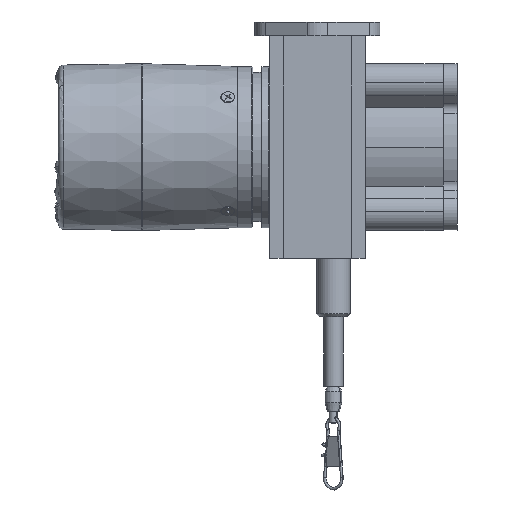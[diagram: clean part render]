
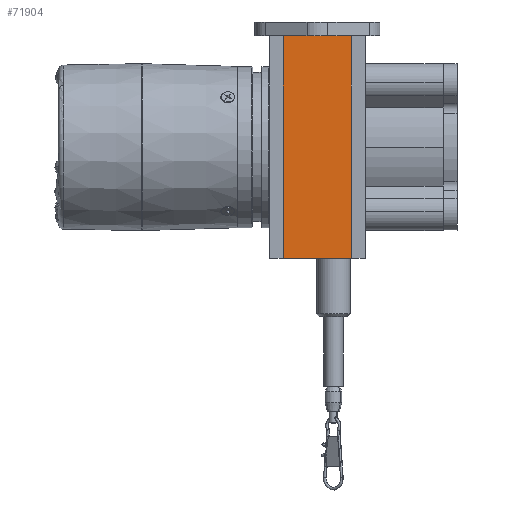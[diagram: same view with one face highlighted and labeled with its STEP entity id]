
A CAD part, front view. The second image highlights one B-rep face of the part: STEP entity #71904.
In plain terms, the highlighted planar face has unit normal (0, -1, 0).
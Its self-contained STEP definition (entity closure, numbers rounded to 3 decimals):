
#62656 = CARTESIAN_POINT ( 'NONE',  ( -24.5, -40., -40. ) ) ;
#62657 = LINE ( 'NONE', #62656, #62713 ) ;
#62686 = DIRECTION ( 'NONE',  ( 0., 0., 1. ) ) ;
#62687 = VECTOR ( 'NONE', #62686, 1000. ) ;
#62688 = CARTESIAN_POINT ( 'NONE',  ( -24.5, -40., -40. ) ) ;
#62689 = LINE ( 'NONE', #62688, #62687 ) ;
#62712 = DIRECTION ( 'NONE',  ( -1., 0., 0. ) ) ;
#62713 = VECTOR ( 'NONE', #62712, 1000. ) ;
#62739 = CARTESIAN_POINT ( 'NONE',  ( -24.5, -40., -40. ) ) ;
#62830 = DIRECTION ( 'NONE',  ( 0., 0., -1. ) ) ;
#62831 = VECTOR ( 'NONE', #62830, 1000. ) ;
#62832 = CARTESIAN_POINT ( 'NONE',  ( 0., -40., -40. ) ) ;
#62833 = LINE ( 'NONE', #62832, #62831 ) ;
#62846 = CARTESIAN_POINT ( 'NONE',  ( 0., -40., 40. ) ) ;
#62847 = DIRECTION ( 'NONE',  ( 1., 0., 0. ) ) ;
#62848 = VECTOR ( 'NONE', #62847, 1000. ) ;
#62849 = CARTESIAN_POINT ( 'NONE',  ( -24.5, -40., 40. ) ) ;
#62850 = LINE ( 'NONE', #62849, #62848 ) ;
#62868 = CARTESIAN_POINT ( 'NONE',  ( -24.5, -40., 40. ) ) ;
#62869 = CARTESIAN_POINT ( 'NONE',  ( 0., -40., -40. ) ) ;
#62973 = FACE_OUTER_BOUND ( 'NONE', #71828, .T. ) ;
#63022 = DIRECTION ( 'NONE',  ( 0., 0., 1. ) ) ;
#63023 = DIRECTION ( 'NONE',  ( 0., 1., 0. ) ) ;
#63024 = CARTESIAN_POINT ( 'NONE',  ( -24.5, -40., -40. ) ) ;
#63025 = AXIS2_PLACEMENT_3D ( 'NONE', #63024, #63023, #63022 ) ;
#63026 = PLANE ( 'NONE',  #63025 ) ;
#71793 = EDGE_CURVE ( 'NONE', #71861, #71800, #62657, .T. ) ;
#71797 = EDGE_CURVE ( 'NONE', #71800, #71863, #62689, .T. ) ;
#71800 = VERTEX_POINT ( 'NONE', #62739 ) ;
#71828 = EDGE_LOOP ( 'NONE', ( #71895, #71894, #71893, #71885 ) ) ;
#71831 = EDGE_CURVE ( 'NONE', #71853, #71861, #62833, .T. ) ;
#71848 = EDGE_CURVE ( 'NONE', #71863, #71853, #62850, .T. ) ;
#71853 = VERTEX_POINT ( 'NONE', #62846 ) ;
#71861 = VERTEX_POINT ( 'NONE', #62869 ) ;
#71863 = VERTEX_POINT ( 'NONE', #62868 ) ;
#71885 = ORIENTED_EDGE ( 'NONE', *, *, #71831, .F. ) ;
#71893 = ORIENTED_EDGE ( 'NONE', *, *, #71793, .F. ) ;
#71894 = ORIENTED_EDGE ( 'NONE', *, *, #71797, .F. ) ;
#71895 = ORIENTED_EDGE ( 'NONE', *, *, #71848, .F. ) ;
#71904 = ADVANCED_FACE ( 'NONE', ( #62973 ), #63026, .F. ) ;
